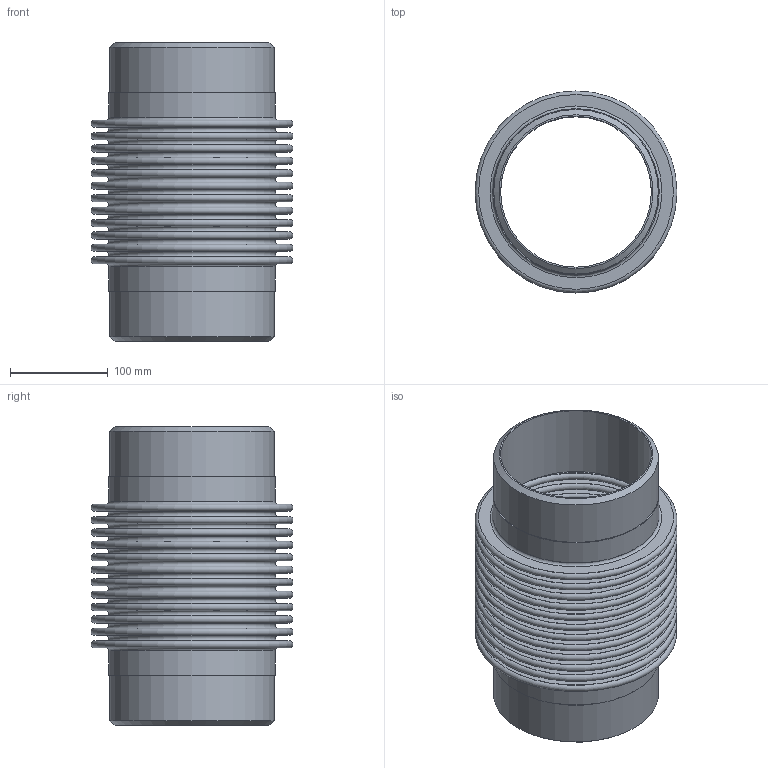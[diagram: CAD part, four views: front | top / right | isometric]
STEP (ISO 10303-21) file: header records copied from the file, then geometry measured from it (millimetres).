
FILE_DESCRIPTION(/* description */ ('EXPANSION JOINT,SINGLE, WELD ENDS,4 INCH NOMINAL'),/* implementation_level */ '2;1');
FILE_NAME(/* name */ 'ASSEMBLY US-6-12-150L.stp',/* time_stamp */ '2026-07-28T16:07:57-05:00',/* author */ ('jorgef'),/* organization */ (''),/* preprocessor_version */ 'ST-DEVELOPER v20.1',/* originating_system */ 'Autodesk Inventor 2026',/* authorisation */ '');
FILE_SCHEMA (('AUTOMOTIVE_DESIGN { 1 0 10303 214 3 1 1 }'));
Length unit declared in the file: inch
Products named in the file (3): ASSEMBLY  US-6-12-150L; STOCK BELLOW - US-6-12-150L; PIPE- US-6-12-150L
Assembly tree (3 placements, depth 2):
  ASSEMBLY  US-6-12-150L
    STOCK BELLOW - US-6-12-150L
    PIPE- US-6-12-150L  x2
Bounding box: 206.38 x 206.38 x 304.8 mm (x, y, z)
Volume: 842384.2 mm3; surface area: 837314.5 mm2
Topology: 5 solids, 5 shells, 118 faces, 180 edges, 121 vertices
Faces by surface type: plane 58, torus 50, cylinder 8, cone 2
Full cylindrical faces by diameter (mm): 154.051 x2, 168.275 x4, 170.104 x2
Entity records: 2769 total; most frequent: DIRECTION 573, CARTESIAN_POINT 405, ORIENTED_EDGE 342, AXIS2_PLACEMENT_3D 283, EDGE_CURVE 171, EDGE_LOOP 169, CIRCLE 164, VERTEX_POINT 114
